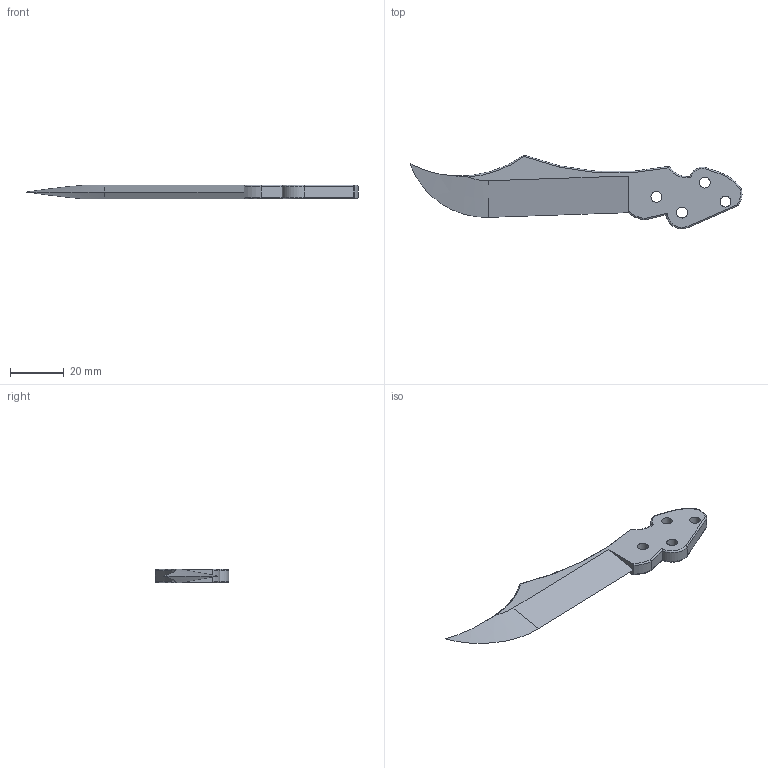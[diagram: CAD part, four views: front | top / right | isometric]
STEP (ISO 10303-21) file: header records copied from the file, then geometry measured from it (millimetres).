
FILE_DESCRIPTION(/* description */ (''),/* implementation_level */ '2;1');
FILE_NAME(/* name */ 'D:\STEP files\blade.stp',/* time_stamp */ '2020-08-13T23:47:08+02:00',/* author */ ('Vít Budina'),/* organization */ (''),/* preprocessor_version */ 'ST-DEVELOPER v18',/* originating_system */ 'Autodesk Inventor 2020',/* authorisation */ '');
FILE_SCHEMA (('AUTOMOTIVE_DESIGN { 1 0 10303 214 3 1 1 }'));
Length unit declared in the file: millimetre
Products named in the file (1): blade
Bounding box: 123.22 x 27.28 x 5 mm (x, y, z)
Volume: 6930.9 mm3; surface area: 4979.4 mm2
Topology: 1 solids, 1 shells, 69 faces, 150 edges, 83 vertices
Faces by surface type: cylinder 27, torus 18, sphere 12, plane 10, bspline 2
Full cylindrical faces by diameter (mm): 4 x4
Entity records: 2024 total; most frequent: CARTESIAN_POINT 437, DIRECTION 363, ORIENTED_EDGE 300, AXIS2_PLACEMENT_3D 157, EDGE_CURVE 150, CIRCLE 89, VERTEX_POINT 83, EDGE_LOOP 77
